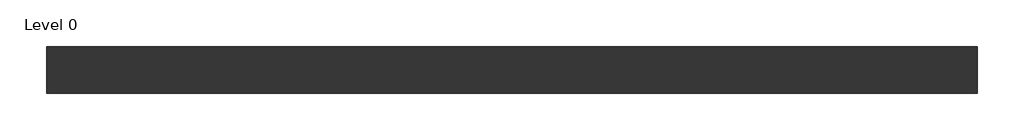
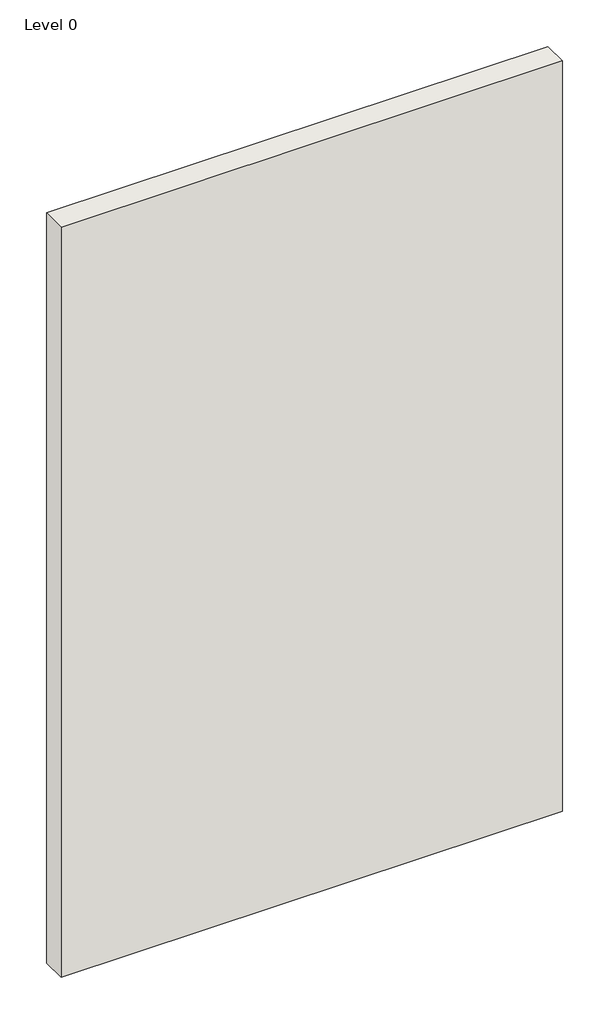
# One storey: 1 wall.
"""IFC4 building model written with IfcOpenShell, lengths in millimetres."""

from ifc_helpers import new_model, si_unit, origin, origin_with_axes, place, context, project, spatial, polyline, outline, extrude, element, save

model = new_model("IFC4")

# Units and contexts
model_context = context("Model", 3, world=origin())
ifc_project = project(units=[si_unit("LENGTHUNIT", "METRE", prefix="MILLI")], contexts=[model_context])

# Site, building, storey
site = spatial("IfcSite", under=ifc_project)
building = spatial("IfcBuilding", under=site)
storey = spatial("IfcBuildingStorey", under=building, Name="Level 0", Elevation=0.0)

# Wall
placement = place(None, origin())
element("IfcWall", 1, ObjectType="A206252 - GypWall FireWall", at=placement, inside=storey, context=model_context, shape_type="SweptSolid", body=[
    extrude(outline(polyline([(1155.997948, 477.7669953), (-1944.002052, 477.7669953), (-1944.002052, 632.7669953), (1155.997948, 632.7669953), (1155.997948, 477.7669953)])), origin_with_axes(), (0.0, 0.0, 1.0), 4900.0),
])

save(model, "model.ifc")
